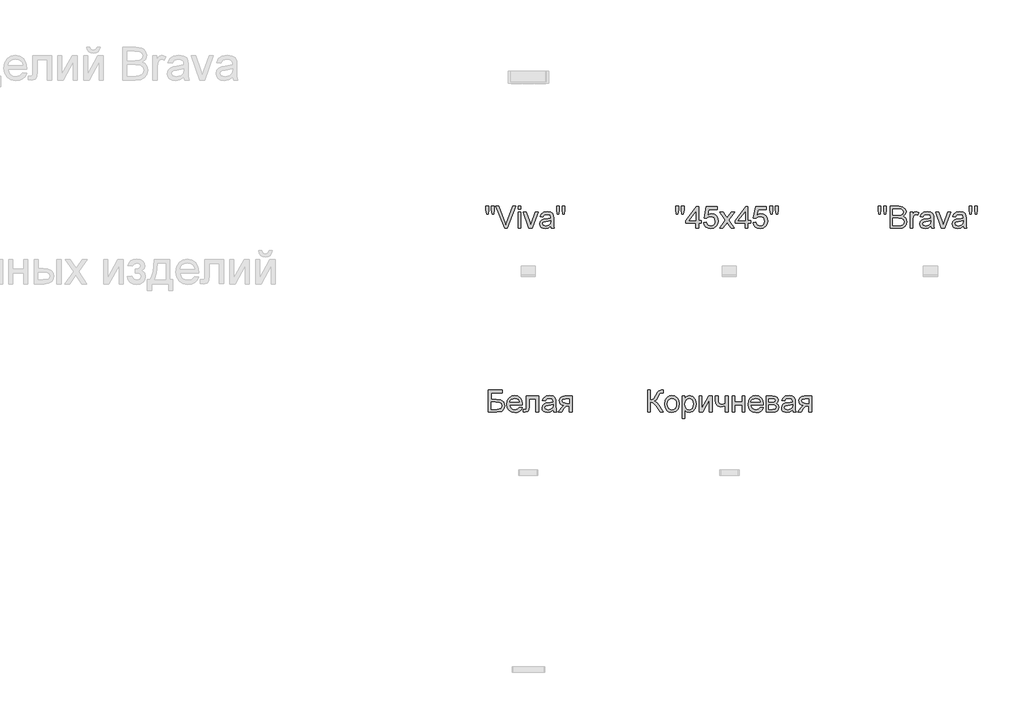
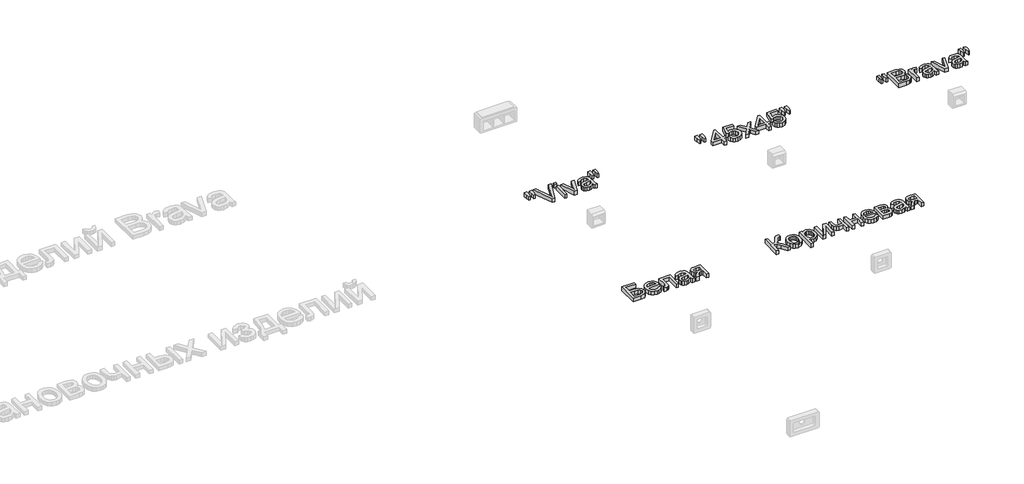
# One storey, part 39 of 48: 5 proxies.
"""IFC4 building model written with IfcOpenShell, lengths in millimetres."""

from ifc_helpers import new_model, si_unit, origin, origin_with_axes, place, context, project, spatial, polyline, outline, extrude, element, save

model = new_model("IFC4")

# Units and contexts
model_context = context("Model", 3, world=origin())
ifc_project = project(units=[si_unit("LENGTHUNIT", "METRE", prefix="MILLI")], contexts=[model_context])

# Site, building, storey
site = spatial("IfcSite", under=ifc_project)
building = spatial("IfcBuilding", under=site)
storey = spatial("IfcBuildingStorey", under=building, Name="Этаж 01", Elevation=0.0)

# Proxies
placement = place(None, origin())
element("IfcBuildingElementProxy", 1, Name="100 мм Arial", ObjectType="100 мм Arial", at=placement, inside=storey, context=model_context, shape_type="SweptSolid", body=[
    extrude(outline(polyline([(44426.5355488, 3410.9083766), (44423.4698655, 3430.3080204), (44423.4698655, 3447.009863), (44436.0269043, 3447.009863), (44436.0269043, 3430.3080204), (44433.2800521, 3410.9083766), (44426.5355488, 3410.9083766)])), origin_with_axes(), (0.0, 0.0, 1.0), 20.0),
    extrude(outline(polyline([(44451.57605, 3410.9083766), (44448.5839431, 3430.3080204), (44448.5839431, 3447.009863), (44461.1409819, 3447.009863), (44461.1409819, 3430.3080204), (44458.1979259, 3410.9083766), (44451.57605, 3410.9083766)])), origin_with_axes(), (0.0, 0.0, 1.0), 20.0),
    extrude(outline(polyline([(44508.0827244, 3346.5535529), (44468.1062143, 3447.009863), (44481.5461699, 3447.009863), (44508.3034536, 3374.6352118), (44513.7235817, 3358.3257767), (44519.0701334, 3374.6352118), (44545.9009935, 3447.009863), (44559.3409491, 3447.009863), (44521.0566961, 3346.5535529), (44508.0827244, 3346.5535529)])), origin_with_axes(), (0.0, 0.0, 1.0), 20.0),
    extrude(outline(polyline([(44569.4454412, 3434.4528243), (44569.4454412, 3447.009863), (44582.00248, 3447.009863), (44582.00248, 3434.4528243), (44569.4454412, 3434.4528243)])), origin_with_axes(), (0.0, 0.0, 1.0), 20.0),
    extrude(outline(polyline([(44569.4454412, 3346.5535529), (44569.4454412, 3420.3261556), (44582.00248, 3420.3261556), (44582.00248, 3346.5535529), (44569.4454412, 3346.5535529)])), origin_with_axes(), (0.0, 0.0, 1.0), 20.0),
    extrude(outline(polyline([(44618.9378323, 3346.5535529), (44592.9898889, 3420.3261556), (44606.2826917, 3420.3261556), (44622.0035156, 3376.1312653), (44626.7369306, 3361.2688327), (44631.3722438, 3375.2973994), (44647.1911695, 3420.3261556), (44660.4839723, 3420.3261556), (44634.85486, 3346.5535529), (44618.9378323, 3346.5535529)])), origin_with_axes(), (0.0, 0.0, 1.0), 20.0),
    extrude(outline(polyline([(44718.5602766, 3355.971332), (44706.3833826, 3347.4609951), (44692.9311643, 3344.983923), (44682.4373304, 3346.4738451), (44674.6964801, 3350.9436113), (44669.9232112, 3357.7310342), (44668.3321215, 3366.173926), (44670.7356172, 3376.1067398), (44677.0509248, 3383.3172269), (44685.8433045, 3387.4375053), (44696.7080861, 3389.3259662), (44718.4867002, 3393.6424483), (44718.5602766, 3396.4383514), (44715.1021859, 3405.7089777), (44701.2207719, 3409.3387467), (44688.5165803, 3406.9229883), (44682.4587902, 3398.3513378), (44669.9017514, 3399.9209676), (44675.3341422, 3412.1837008), (44686.2725002, 3419.3696625), (44702.8394527, 3421.8957855), (44718.0575046, 3419.663968), (44726.6536805, 3414.059899), (44730.5041787, 3405.5372994), (44731.1173154, 3394.5498905), (44731.1173154, 3378.9271684), (44731.7549775, 3357.1117661), (44734.2565751, 3346.5535529), (44721.6995363, 3346.5535529), (44718.5602766, 3355.971332)]), holes=[polyline([(44718.5602766, 3381.0854095), (44698.3022414, 3377.2349113), (44687.4987735, 3375.1992976), (44682.6059429, 3371.8883596), (44680.8891603, 3367.0568427), (44684.6292939, 3360.2632886), (44695.6044401, 3357.5409618), (44708.3086317, 3360.5453314), (44716.5001374, 3367.8171322), (44718.4867002, 3377.5292169), (44718.5602766, 3381.0854095)])]), origin_with_axes(), (0.0, 0.0, 1.0), 20.0),
    extrude(outline(polyline([(44748.3096673, 3410.9083766), (44745.243984, 3430.3080204), (44745.243984, 3447.009863), (44757.8010228, 3447.009863), (44757.8010228, 3430.3080204), (44755.0541705, 3410.9083766), (44748.3096673, 3410.9083766)])), origin_with_axes(), (0.0, 0.0, 1.0), 20.0),
    extrude(outline(polyline([(44773.3501684, 3410.9083766), (44770.3580615, 3430.3080204), (44770.3580615, 3447.009863), (44782.9151003, 3447.009863), (44782.9151003, 3430.3080204), (44779.9720443, 3410.9083766), (44773.3501684, 3410.9083766)])), origin_with_axes(), (0.0, 0.0, 1.0), 20.0),
])
element("IfcBuildingElementProxy", 2, Name="100 мм Arial", ObjectType="100 мм Arial", at=placement, inside=storey, context=model_context, shape_type="SweptSolid", body=[
    extrude(outline(polyline([(45290.6262268, 3410.9083766), (45287.5605435, 3430.3080204), (45287.5605435, 3447.009863), (45300.1175822, 3447.009863), (45300.1175822, 3430.3080204), (45297.37073, 3410.9083766), (45290.6262268, 3410.9083766)])), origin_with_axes(), (0.0, 0.0, 1.0), 20.0),
    extrude(outline(polyline([(45315.6667279, 3410.9083766), (45312.674621, 3430.3080204), (45312.674621, 3447.009863), (45325.2316598, 3447.009863), (45325.2316598, 3430.3080204), (45322.2886038, 3410.9083766), (45315.6667279, 3410.9083766)])), origin_with_axes(), (0.0, 0.0, 1.0), 20.0),
    extrude(outline(polyline([(45378.5990745, 3346.5535529), (45378.5990745, 3370.0980006), (45333.079809, 3370.0980006), (45333.079809, 3382.6550393), (45381.7383342, 3445.4402332), (45391.1561133, 3445.4402332), (45391.1561133, 3382.6550393), (45403.7131521, 3382.6550393), (45403.7131521, 3370.0980006), (45391.1561133, 3370.0980006), (45391.1561133, 3346.5535529), (45378.5990745, 3346.5535529)]), holes=[polyline([(45378.5990745, 3382.6550393), (45378.5990745, 3421.4543271), (45348.5308528, 3382.6550393), (45378.5990745, 3382.6550393)])]), origin_with_axes(), (0.0, 0.0, 1.0), 20.0),
    extrude(outline(polyline([(45414.700561, 3373.2372603), (45427.2575998, 3374.8068901), (45433.5851701, 3361.8697066), (45446.7062946, 3357.5409618), (45455.7071407, 3359.0462123), (45462.451644, 3363.5619638), (45466.6638928, 3370.5670501), (45468.0679758, 3379.5403051), (45462.8072632, 3394.4517886), (45456.2007157, 3398.5536729), (45446.9024983, 3399.9209676), (45435.8783012, 3397.7382011), (45428.8272296, 3392.0728184), (45416.2701908, 3393.6424483), (45427.2575998, 3445.4402332), (45475.916125, 3445.4402332), (45475.916125, 3432.8831944), (45437.4111428, 3432.8831944), (45432.0400657, 3405.2184684), (45441.010255, 3410.6631219), (45450.40964, 3412.4780064), (45462.14201, 3410.2277949), (45471.8816858, 3403.4771603), (45478.4391823, 3393.1887271), (45480.6250145, 3380.32512), (45478.6568459, 3367.7680813), (45472.7523398, 3357.025927), (45461.4460998, 3347.994424), (45446.6572436, 3344.983923), (45434.3239998, 3346.9183692), (45424.4984848, 3352.7217077), (45417.7631786, 3361.7194881), (45414.700561, 3373.2372603)])), origin_with_axes(), (0.0, 0.0, 1.0), 20.0),
    extrude(outline(polyline([(45486.9035339, 3346.5535529), (45513.7343941, 3383.636058), (45488.4731638, 3420.3261556), (45503.580851, 3420.3261556), (45515.7700078, 3402.6678199), (45521.459916, 3394.3291613), (45526.3895347, 3401.147241), (45540.2709487, 3420.3261556), (45555.3786359, 3420.3261556), (45528.8420814, 3383.636058), (45554.3976173, 3346.5535529), (45539.28993, 3346.5535529), (45523.9124626, 3368.8472018), (45521.092034, 3372.9184292), (45502.0112212, 3346.5535529), (45486.9035339, 3346.5535529)])), origin_with_axes(), (0.0, 0.0, 1.0), 20.0),
    extrude(outline(polyline([(45603.0561425, 3346.5535529), (45603.0561425, 3370.0980006), (45557.536877, 3370.0980006), (45557.536877, 3382.6550393), (45606.1954022, 3445.4402332), (45615.6131813, 3445.4402332), (45615.6131813, 3382.6550393), (45628.1702201, 3382.6550393), (45628.1702201, 3370.0980006), (45615.6131813, 3370.0980006), (45615.6131813, 3346.5535529), (45603.0561425, 3346.5535529)]), holes=[polyline([(45603.0561425, 3382.6550393), (45603.0561425, 3421.4543271), (45572.9879208, 3382.6550393), (45603.0561425, 3382.6550393)])]), origin_with_axes(), (0.0, 0.0, 1.0), 20.0),
    extrude(outline(polyline([(45639.157629, 3373.2372603), (45651.7146678, 3374.8068901), (45658.0422381, 3361.8697066), (45671.1633626, 3357.5409618), (45680.1642087, 3359.0462123), (45686.908712, 3363.5619638), (45691.1209608, 3370.5670501), (45692.5250438, 3379.5403051), (45687.2643312, 3394.4517886), (45680.6577837, 3398.5536729), (45671.3595663, 3399.9209676), (45660.3353692, 3397.7382011), (45653.2842976, 3392.0728184), (45640.7272588, 3393.6424483), (45651.7146678, 3445.4402332), (45700.373193, 3445.4402332), (45700.373193, 3432.8831944), (45661.8682108, 3432.8831944), (45656.4971337, 3405.2184684), (45665.467323, 3410.6631219), (45674.866708, 3412.4780064), (45686.5990779, 3410.2277949), (45696.3387538, 3403.4771603), (45702.8962503, 3393.1887271), (45705.0820825, 3380.32512), (45703.1139138, 3367.7680813), (45697.2094078, 3357.025927), (45685.9031678, 3347.994424), (45671.1143116, 3344.983923), (45658.7810677, 3346.9183692), (45648.9555528, 3352.7217077), (45642.2202466, 3361.7194881), (45639.157629, 3373.2372603)])), origin_with_axes(), (0.0, 0.0, 1.0), 20.0),
    extrude(outline(polyline([(45719.1351747, 3410.9083766), (45716.0694914, 3430.3080204), (45716.0694914, 3447.009863), (45728.6265302, 3447.009863), (45728.6265302, 3430.3080204), (45725.879678, 3410.9083766), (45719.1351747, 3410.9083766)])), origin_with_axes(), (0.0, 0.0, 1.0), 20.0),
    extrude(outline(polyline([(45744.1756759, 3410.9083766), (45741.183569, 3430.3080204), (45741.183569, 3447.009863), (45753.7406077, 3447.009863), (45753.7406077, 3430.3080204), (45750.7975518, 3410.9083766), (45744.1756759, 3410.9083766)])), origin_with_axes(), (0.0, 0.0, 1.0), 20.0),
])
element("IfcBuildingElementProxy", 3, Name="100 мм Arial", ObjectType="100 мм Arial", at=placement, inside=storey, context=model_context, shape_type="SweptSolid", body=[
    extrude(outline(polyline([(46211.6476537, 3410.9083766), (46208.5819704, 3430.3080204), (46208.5819704, 3447.009863), (46221.1390092, 3447.009863), (46221.1390092, 3430.3080204), (46218.392157, 3410.9083766), (46211.6476537, 3410.9083766)])), origin_with_axes(), (0.0, 0.0, 1.0), 20.0),
    extrude(outline(polyline([(46236.6881549, 3410.9083766), (46233.696048, 3430.3080204), (46233.696048, 3447.009863), (46246.2530868, 3447.009863), (46246.2530868, 3430.3080204), (46243.3100308, 3410.9083766), (46236.6881549, 3410.9083766)])), origin_with_axes(), (0.0, 0.0, 1.0), 20.0),
    extrude(outline(polyline([(46263.5190151, 3346.5535529), (46263.5190151, 3447.009863), (46301.852319, 3447.009863), (46320.6265634, 3444.0545443), (46331.7120742, 3434.967859), (46335.721988, 3422.1165147), (46332.3497364, 3410.381079), (46322.1594051, 3401.4905975), (46334.5325029, 3392.1218693), (46338.8612477, 3376.4991473), (46335.905929, 3362.9978781), (46328.5850773, 3353.3838953), (46317.658982, 3348.2825983), (46301.5580134, 3346.5535529), (46263.5190151, 3346.5535529)]), holes=[polyline([(46276.0760538, 3406.199487), (46299.0073649, 3406.199487), (46312.3982695, 3407.2786075), (46320.4548852, 3411.9261834), (46323.1649492, 3420.1054264), (46320.6388262, 3428.2969322), (46313.4038136, 3433.1407118), (46297.2660568, 3434.4528243), (46276.0760538, 3434.4528243), (46276.0760538, 3406.199487)]), polyline([(46276.0760538, 3359.1105916), (46301.8277935, 3359.1105916), (46311.1474707, 3359.601101), (46319.0324081, 3362.3356905), (46324.2563325, 3367.9152341), (46326.3042089, 3376.3765199), (46323.9007132, 3386.1376556), (46316.1138776, 3391.9624538), (46300.6015202, 3393.6424483), (46276.0760538, 3393.6424483), (46276.0760538, 3359.1105916)])]), origin_with_axes(), (0.0, 0.0, 1.0), 20.0),
    extrude(outline(polyline([(46354.5575461, 3346.5535529), (46354.5575461, 3420.3261556), (46365.5449551, 3420.3261556), (46365.5449551, 3409.4123231), (46373.3440534, 3419.4677643), (46381.1922026, 3421.8957855), (46393.7982923, 3418.0207618), (46389.6044375, 3406.7635728), (46380.7752697, 3409.3387467), (46373.6751472, 3406.8616746), (46369.1501986, 3399.994544), (46367.1145849, 3385.3283152), (46367.1145849, 3346.5535529), (46354.5575461, 3346.5535529)])), origin_with_axes(), (0.0, 0.0, 1.0), 20.0),
    extrude(outline(polyline([(46448.7353369, 3355.971332), (46436.5584429, 3347.4609951), (46423.1062246, 3344.983923), (46412.6123907, 3346.4738451), (46404.8715403, 3350.9436113), (46400.0982715, 3357.7310342), (46398.5071818, 3366.173926), (46400.9106775, 3376.1067398), (46407.2259851, 3383.3172269), (46416.0183648, 3387.4375053), (46426.8831464, 3389.3259662), (46448.6617605, 3393.6424483), (46448.7353369, 3396.4383514), (46445.2772461, 3405.7089777), (46431.3958322, 3409.3387467), (46418.6916406, 3406.9229883), (46412.6338504, 3398.3513378), (46400.0768117, 3399.9209676), (46405.5092025, 3412.1837008), (46416.4475605, 3419.3696625), (46433.014513, 3421.8957855), (46448.2325648, 3419.663968), (46456.8287408, 3414.059899), (46460.679239, 3405.5372994), (46461.2923757, 3394.5498905), (46461.2923757, 3378.9271684), (46461.9300378, 3357.1117661), (46464.4316354, 3346.5535529), (46451.8745966, 3346.5535529), (46448.7353369, 3355.971332)]), holes=[polyline([(46448.7353369, 3381.0854095), (46428.4773017, 3377.2349113), (46417.6738338, 3375.1992976), (46412.7810032, 3371.8883596), (46411.0642206, 3367.0568427), (46414.8043542, 3360.2632886), (46425.7795004, 3357.5409618), (46438.483692, 3360.5453314), (46446.6751977, 3367.8171322), (46448.6617605, 3377.5292169), (46448.7353369, 3381.0854095)])]), origin_with_axes(), (0.0, 0.0, 1.0), 20.0),
    extrude(outline(polyline([(46496.6580981, 3346.5535529), (46470.7101547, 3420.3261556), (46484.0029575, 3420.3261556), (46499.7237814, 3376.1312653), (46504.4571964, 3361.2688327), (46509.0925096, 3375.2973994), (46524.9114354, 3420.3261556), (46538.2042381, 3420.3261556), (46512.5751258, 3346.5535529), (46496.6580981, 3346.5535529)])), origin_with_axes(), (0.0, 0.0, 1.0), 20.0),
    extrude(outline(polyline([(46596.2805424, 3355.971332), (46584.1036484, 3347.4609951), (46570.6514301, 3344.983923), (46560.1575962, 3346.4738451), (46552.4167459, 3350.9436113), (46547.643477, 3357.7310342), (46546.0523874, 3366.173926), (46548.4558831, 3376.1067398), (46554.7711906, 3383.3172269), (46563.5635703, 3387.4375053), (46574.4283519, 3389.3259662), (46596.206966, 3393.6424483), (46596.2805424, 3396.4383514), (46592.8224517, 3405.7089777), (46578.9410377, 3409.3387467), (46566.2368462, 3406.9229883), (46560.179056, 3398.3513378), (46547.6220172, 3399.9209676), (46553.054408, 3412.1837008), (46563.992766, 3419.3696625), (46580.5597185, 3421.8957855), (46595.7777704, 3419.663968), (46604.3739463, 3414.059899), (46608.2244445, 3405.5372994), (46608.8375812, 3394.5498905), (46608.8375812, 3378.9271684), (46609.4752433, 3357.1117661), (46611.9768409, 3346.5535529), (46599.4198021, 3346.5535529), (46596.2805424, 3355.971332)]), holes=[polyline([(46596.2805424, 3381.0854095), (46576.0225072, 3377.2349113), (46565.2190393, 3375.1992976), (46560.3262088, 3371.8883596), (46558.6094261, 3367.0568427), (46562.3495597, 3360.2632886), (46573.3247059, 3357.5409618), (46586.0288975, 3360.5453314), (46594.2204033, 3367.8171322), (46596.206966, 3377.5292169), (46596.2805424, 3381.0854095)])]), origin_with_axes(), (0.0, 0.0, 1.0), 20.0),
    extrude(outline(polyline([(46626.0299331, 3410.9083766), (46622.9642498, 3430.3080204), (46622.9642498, 3447.009863), (46635.5212886, 3447.009863), (46635.5212886, 3430.3080204), (46632.7744364, 3410.9083766), (46626.0299331, 3410.9083766)])), origin_with_axes(), (0.0, 0.0, 1.0), 20.0),
    extrude(outline(polyline([(46651.0704342, 3410.9083766), (46648.0783274, 3430.3080204), (46648.0783274, 3447.009863), (46660.6353661, 3447.009863), (46660.6353661, 3430.3080204), (46657.6923102, 3410.9083766), (46651.0704342, 3410.9083766)])), origin_with_axes(), (0.0, 0.0, 1.0), 20.0),
])
element("IfcBuildingElementProxy", 4, Name="100 мм Arial", ObjectType="100 мм Arial", at=placement, inside=storey, context=model_context, shape_type="SweptSolid", body=[
    extrude(outline(polyline([(44434.2436065, 2609.5229556), (44497.0288003, 2609.5229556), (44497.0288003, 2596.9659168), (44446.8006452, 2596.9659168), (44446.8006452, 2567.1429498), (44470.3205675, 2567.1429498), (44491.0445865, 2564.5923013), (44503.3808961, 2554.953793), (44508.0162092, 2538.4726796), (44504.717534, 2524.16207), (44494.8705593, 2513.2850257), (44472.5769104, 2509.0666454), (44434.2436065, 2509.0666454), (44434.2436065, 2609.5229556)]), holes=[polyline([(44446.8006452, 2521.6236842), (44473.7050818, 2521.6236842), (44490.0145169, 2525.768488), (44494.0980071, 2530.9494928), (44495.4591705, 2538.2028995), (44492.3444362, 2548.0376115), (44483.6746839, 2553.2860613), (44464.7532866, 2554.585911), (44446.8006452, 2554.585911), (44446.8006452, 2521.6236842)])]), origin_with_axes(), (0.0, 0.0, 1.0), 20.0),
    extrude(outline(polyline([(44575.3631398, 2531.0414633), (44587.6749239, 2529.4718334), (44583.2388802, 2520.1950758), (44576.1602175, 2513.2605002), (44566.5983513, 2508.9378867), (44554.7126972, 2507.4970156), (44539.9790233, 2509.9832848), (44528.6421264, 2517.4420922), (44521.4132452, 2529.38906), (44519.0036182, 2545.3398102), (44521.4377707, 2561.8270549), (44528.7402283, 2574.1572331), (44539.923841, 2581.8459668), (44554.0014586, 2584.4088781), (44567.6406836, 2581.8520982), (44578.5391877, 2574.1817586), (44585.6852955, 2561.8761059), (44588.0673314, 2545.4133866), (44587.993755, 2542.0288722), (44531.5606569, 2542.0288722), (44533.7342264, 2532.6294872), (44538.7834068, 2525.7194371), (44546.070536, 2521.4704001), (44554.9579518, 2520.0540544), (44567.2697359, 2522.6782793), (44575.3631398, 2531.0414633)]), holes=[polyline([(44531.5606569, 2554.585911), (44575.5102926, 2554.585911), (44570.482572, 2565.9657274), (44563.1617203, 2570.3803113), (44553.9524077, 2571.8518393), (44538.4891012, 2567.1552125), (44533.6238618, 2561.6645737), (44531.5606569, 2554.585911)])]), origin_with_axes(), (0.0, 0.0, 1.0), 20.0),
    extrude(outline(polyline([(44606.9028895, 2582.8392482), (44663.409564, 2582.8392482), (44663.409564, 2509.1402218), (44650.8525252, 2509.1402218), (44650.8525252, 2570.2822094), (44619.4599283, 2570.2822094), (44619.4599283, 2535.0881652), (44618.6137997, 2518.8523065), (44613.9662238, 2511.9974387), (44602.9788149, 2509.0666454), (44592.7762209, 2509.7043076), (44592.7762209, 2521.6236842), (44598.3925527, 2521.6236842), (44604.0701982, 2522.3962364), (44606.3388038, 2524.848783), (44606.9028895, 2535.7994038), (44606.9028895, 2582.8392482)])), origin_with_axes(), (0.0, 0.0, 1.0), 20.0),
    extrude(outline(polyline([(44729.3340175, 2518.4844245), (44717.1571235, 2509.9740877), (44703.7049052, 2507.4970156), (44693.2110713, 2508.9869377), (44685.470221, 2513.4567039), (44680.6969521, 2520.2441267), (44679.1058625, 2528.6870185), (44681.5093582, 2538.6198324), (44687.8246657, 2545.8303195), (44696.6170454, 2549.9505978), (44707.481827, 2551.8390588), (44729.2604411, 2556.1555408), (44729.3340175, 2558.951444), (44725.8759268, 2568.2220703), (44711.9945128, 2571.8518393), (44699.2903213, 2569.4360809), (44693.2325311, 2560.8644304), (44680.6754923, 2562.4340602), (44686.1078831, 2574.6967934), (44697.0462411, 2581.882755), (44713.6131936, 2584.4088781), (44728.8312455, 2582.1770606), (44737.4274214, 2576.5729916), (44741.2779196, 2568.050392), (44741.8910563, 2557.0629831), (44741.8910563, 2541.440261), (44742.5287184, 2519.6248587), (44745.030316, 2509.0666454), (44732.4732772, 2509.0666454), (44729.3340175, 2518.4844245)]), holes=[polyline([(44729.3340175, 2543.5985021), (44709.0759823, 2539.7480038), (44698.2725144, 2537.7123901), (44693.3796839, 2534.4014522), (44691.6629012, 2529.5699353), (44695.4030348, 2522.7763811), (44706.378181, 2520.0540544), (44719.0823726, 2523.058424), (44727.2738784, 2530.3302248), (44729.2604411, 2540.0423094), (44729.3340175, 2543.5985021)])]), origin_with_axes(), (0.0, 0.0, 1.0), 20.0),
    extrude(outline(polyline([(44815.6636591, 2582.8392482), (44815.6636591, 2509.0666454), (44803.1066203, 2509.0666454), (44803.1066203, 2537.3199827), (44796.2640152, 2537.3199827), (44786.944338, 2535.7258274), (44778.1887465, 2525.0081986), (44768.1823562, 2509.0666454), (44753.6632802, 2509.0666454), (44766.2693699, 2529.2265788), (44776.9624732, 2539.6744274), (44768.37856, 2542.3047837), (44762.3452952, 2547.3018475), (44757.5873548, 2561.526618), (44759.2121669, 2570.1227939), (44764.0866033, 2576.9286108), (44772.0389858, 2581.3615889), (44782.897636, 2582.8392482), (44815.6636591, 2582.8392482)]), holes=[polyline([(44803.1066203, 2570.2822094), (44786.5519305, 2570.2822094), (44773.1487632, 2567.3759417), (44770.1443935, 2560.5701248), (44774.5712402, 2552.4644581), (44790.2552759, 2549.8770214), (44803.1066203, 2549.8770214), (44803.1066203, 2570.2822094)])]), origin_with_axes(), (0.0, 0.0, 1.0), 20.0),
])
element("IfcBuildingElementProxy", 5, Name="100 мм Arial", ObjectType="100 мм Arial", at=placement, inside=storey, context=model_context, shape_type="SweptSolid", body=[
    extrude(outline(polyline([(45159.8490718, 2609.5229556), (45172.4061105, 2609.5229556), (45172.4061105, 2565.5733199), (45186.44694, 2568.8965206), (45196.2448638, 2585.7087278), (45203.1733081, 2599.7495573), (45211.0214573, 2606.702527), (45222.2418582, 2609.5229556), (45230.4824149, 2609.3758028), (45230.4824149, 2596.818764), (45227.7110372, 2596.8923404), (45224.9396595, 2596.9659168), (45215.1294729, 2593.9492845), (45207.6737312, 2581.0243637), (45198.7832496, 2565.2790143), (45190.1134973, 2560.0796154), (45199.8071878, 2554.40197), (45209.3659883, 2542.5684325), (45230.4824149, 2509.0666454), (45215.9142878, 2509.0666454), (45198.0597483, 2537.3690336), (45185.4904468, 2552.1456271), (45172.4061105, 2556.1555408), (45172.4061105, 2509.0666454), (45159.8490718, 2509.0666454), (45159.8490718, 2609.5229556)])), origin_with_axes(), (0.0, 0.0, 1.0), 20.0),
    extrude(outline(polyline([(45236.7609342, 2545.9529468), (45239.4771296, 2563.7400413), (45247.6257158, 2576.2418978), (45257.6934198, 2582.367133), (45269.7476865, 2584.4088781), (45282.9393217, 2581.9226089), (45293.4760752, 2574.4638015), (45300.3830596, 2562.6210669), (45302.6853878, 2546.9830164), (45298.6141604, 2524.6403166), (45286.7560974, 2511.9974387), (45269.7476865, 2507.4970156), (45256.3966357, 2509.9740877), (45245.872145, 2517.405304), (45239.0387369, 2529.4963589), (45236.7609342, 2545.9529468)]), holes=[polyline([(45249.317973, 2545.9774723), (45250.7711069, 2534.6129843), (45255.1305085, 2526.5165148), (45261.6910708, 2521.6696695), (45269.7476865, 2520.0540544), (45277.767514, 2521.6788665), (45284.3158135, 2526.553303), (45288.6752151, 2534.7570714), (45290.128349, 2546.3698798), (45288.6660181, 2557.4032739), (45284.2790253, 2565.3893789), (45277.7215287, 2570.2362242), (45269.7476865, 2571.8518393), (45261.6910708, 2570.2423556), (45255.1305085, 2565.4139044), (45250.7711069, 2557.3358289), (45249.317973, 2545.9774723)])]), origin_with_axes(), (0.0, 0.0, 1.0), 20.0),
    extrude(outline(polyline([(45316.8120564, 2480.8133082), (45316.8120564, 2582.8392482), (45329.3690952, 2582.8392482), (45329.3690952, 2570.5274641), (45338.0511102, 2580.9385246), (45349.7742832, 2584.4088781), (45365.6913108, 2579.5528357), (45376.0901085, 2565.8676255), (45379.5972502, 2546.5170326), (45375.6363874, 2526.1731582), (45364.1339437, 2512.3162697), (45348.2537042, 2507.4970156), (45337.327609, 2510.7221144), (45329.3690952, 2518.876832), (45329.3690952, 2480.8133082), (45316.8120564, 2480.8133082)]), holes=[polyline([(45329.3690952, 2545.3643356), (45330.7271929, 2534.1071466), (45334.801486, 2526.2344719), (45340.8132909, 2521.5991588), (45347.9839241, 2520.0540544), (45355.2710533, 2521.654341), (45361.4361424, 2526.4552011), (45365.6391942, 2534.61605), (45367.0402115, 2546.2963034), (45365.6729167, 2557.4921787), (45361.5710325, 2565.475218), (45355.5684246, 2570.257684), (45348.4989589, 2571.8518393), (45341.4019021, 2570.1565164), (45335.1693679, 2565.0705478), (45330.8191634, 2556.7533491), (45329.3690952, 2545.3643356)])]), origin_with_axes(), (0.0, 0.0, 1.0), 20.0),
    extrude(outline(polyline([(45393.7239188, 2582.8392482), (45406.2809576, 2582.8392482), (45406.2809576, 2526.5778284), (45437.1339943, 2582.8392482), (45453.369853, 2582.8392482), (45453.369853, 2509.0666454), (45440.8128142, 2509.0666454), (45440.8128142, 2564.9847087), (45410.1559813, 2509.0666454), (45393.7239188, 2509.0666454), (45393.7239188, 2582.8392482)])), origin_with_axes(), (0.0, 0.0, 1.0), 20.0),
    extrude(outline(polyline([(45467.4965216, 2582.8392482), (45480.0535604, 2582.8392482), (45480.0535604, 2568.6880541), (45481.0713672, 2555.4197768), (45485.9641978, 2548.2338152), (45495.6762824, 2545.1681319), (45513.0157872, 2548.9695792), (45513.0157872, 2582.8392482), (45525.5728259, 2582.8392482), (45525.5728259, 2509.0666454), (45513.0157872, 2509.0666454), (45513.0157872, 2536.9275752), (45492.3162936, 2532.6110931), (45478.0792603, 2537.1115162), (45469.7038136, 2548.1357133), (45467.4965216, 2562.4831111), (45467.4965216, 2582.8392482)])), origin_with_axes(), (0.0, 0.0, 1.0), 20.0),
    extrude(outline(polyline([(45544.4083841, 2582.8392482), (45556.9654228, 2582.8392482), (45556.9654228, 2554.585911), (45589.9276496, 2554.585911), (45589.9276496, 2582.8392482), (45602.4846884, 2582.8392482), (45602.4846884, 2509.0666454), (45589.9276496, 2509.0666454), (45589.9276496, 2542.0288722), (45556.9654228, 2542.0288722), (45556.9654228, 2509.0666454), (45544.4083841, 2509.0666454), (45544.4083841, 2582.8392482)])), origin_with_axes(), (0.0, 0.0, 1.0), 20.0),
    extrude(outline(polyline([(45672.9708787, 2531.0414633), (45685.2826628, 2529.4718334), (45680.846619, 2520.1950758), (45673.7679563, 2513.2605002), (45664.2060901, 2508.9378867), (45652.320436, 2507.4970156), (45637.5867621, 2509.9832848), (45626.2498653, 2517.4420922), (45619.0209841, 2529.38906), (45616.611357, 2545.3398102), (45619.0455095, 2561.8270549), (45626.3479671, 2574.1572331), (45637.5315798, 2581.8459668), (45651.6091975, 2584.4088781), (45665.2484224, 2581.8520982), (45676.1469265, 2574.1817586), (45683.2930343, 2561.8761059), (45685.6750702, 2545.4133866), (45685.6014938, 2542.0288722), (45629.1683958, 2542.0288722), (45631.3419652, 2532.6294872), (45636.3911456, 2525.7194371), (45643.6782748, 2521.4704001), (45652.5656907, 2520.0540544), (45664.8774748, 2522.6782793), (45672.9708787, 2531.0414633)]), holes=[polyline([(45629.1683958, 2554.585911), (45673.1180315, 2554.585911), (45668.0903109, 2565.9657274), (45660.7694591, 2570.3803113), (45651.5601465, 2571.8518393), (45636.09684, 2567.1552125), (45631.2316006, 2561.6645737), (45629.1683958, 2554.585911)])]), origin_with_axes(), (0.0, 0.0, 1.0), 20.0),
    extrude(outline(polyline([(45698.232109, 2582.8392482), (45725.896835, 2582.8392482), (45741.065836, 2581.1592538), (45749.6006982, 2575.0033617), (45753.1691536, 2564.2734702), (45751.0109126, 2555.5546669), (45744.511664, 2549.3374612), (45752.9484244, 2542.5316443), (45756.3084133, 2530.6981068), (45754.1808291, 2521.1270435), (45749.1224517, 2514.3886716), (45741.1148869, 2510.397152), (45730.1397407, 2509.0666454), (45698.232109, 2509.0666454), (45698.232109, 2582.8392482)]), holes=[polyline([(45710.7891478, 2554.585911), (45723.1990337, 2554.585911), (45733.4384159, 2555.2235731), (45738.4170856, 2557.7742216), (45740.6121148, 2562.3850093), (45736.7616166, 2568.5409013), (45723.5914412, 2570.2822094), (45710.7891478, 2570.2822094), (45710.7891478, 2554.585911)]), polyline([(45710.7891478, 2521.6236842), (45726.1911406, 2521.6236842), (45739.8518254, 2523.8922899), (45743.7513745, 2531.7281764), (45741.6053962, 2537.7737038), (45736.0135899, 2541.2931082), (45724.9648673, 2542.0288722), (45710.7891478, 2542.0288722), (45710.7891478, 2521.6236842)])]), origin_with_axes(), (0.0, 0.0, 1.0), 20.0),
    extrude(outline(polyline([(45819.0936071, 2518.4844245), (45806.9167131, 2509.9740877), (45793.4644948, 2507.4970156), (45782.9706609, 2508.9869377), (45775.2298106, 2513.4567039), (45770.4565417, 2520.2441267), (45768.8654521, 2528.6870185), (45771.2689478, 2538.6198324), (45777.5842553, 2545.8303195), (45786.376635, 2549.9505978), (45797.2414166, 2551.8390588), (45819.0200307, 2556.1555408), (45819.0936071, 2558.951444), (45815.6355164, 2568.2220703), (45801.7541024, 2571.8518393), (45789.0499109, 2569.4360809), (45782.9921207, 2560.8644304), (45770.4350819, 2562.4340602), (45775.8674727, 2574.6967934), (45786.8058307, 2581.882755), (45803.3727832, 2584.4088781), (45818.5908351, 2582.1770606), (45827.187011, 2576.5729916), (45831.0375092, 2568.050392), (45831.6506459, 2557.0629831), (45831.6506459, 2541.440261), (45832.288308, 2519.6248587), (45834.7899056, 2509.0666454), (45822.2328668, 2509.0666454), (45819.0936071, 2518.4844245)]), holes=[polyline([(45819.0936071, 2543.5985021), (45798.8355719, 2539.7480038), (45788.032104, 2537.7123901), (45783.1392735, 2534.4014522), (45781.4224908, 2529.5699353), (45785.1626244, 2522.7763811), (45796.1377706, 2520.0540544), (45808.8419622, 2523.058424), (45817.033468, 2530.3302248), (45819.0200307, 2540.0423094), (45819.0936071, 2543.5985021)])]), origin_with_axes(), (0.0, 0.0, 1.0), 20.0),
    extrude(outline(polyline([(45905.4232487, 2582.8392482), (45905.4232487, 2509.0666454), (45892.8662099, 2509.0666454), (45892.8662099, 2537.3199827), (45886.0236048, 2537.3199827), (45876.7039276, 2535.7258274), (45867.9483361, 2525.0081986), (45857.9419458, 2509.0666454), (45843.4228698, 2509.0666454), (45856.0289595, 2529.2265788), (45866.7220628, 2539.6744274), (45858.1381496, 2542.3047837), (45852.1048848, 2547.3018475), (45847.3469444, 2561.526618), (45848.9717565, 2570.1227939), (45853.8461929, 2576.9286108), (45861.7985754, 2581.3615889), (45872.6572256, 2582.8392482), (45905.4232487, 2582.8392482)]), holes=[polyline([(45892.8662099, 2570.2822094), (45876.3115201, 2570.2822094), (45862.9083528, 2567.3759417), (45859.9039831, 2560.5701248), (45864.3308298, 2552.4644581), (45880.0148655, 2549.8770214), (45892.8662099, 2549.8770214), (45892.8662099, 2570.2822094)])]), origin_with_axes(), (0.0, 0.0, 1.0), 20.0),
])

save(model, "model.ifc")
